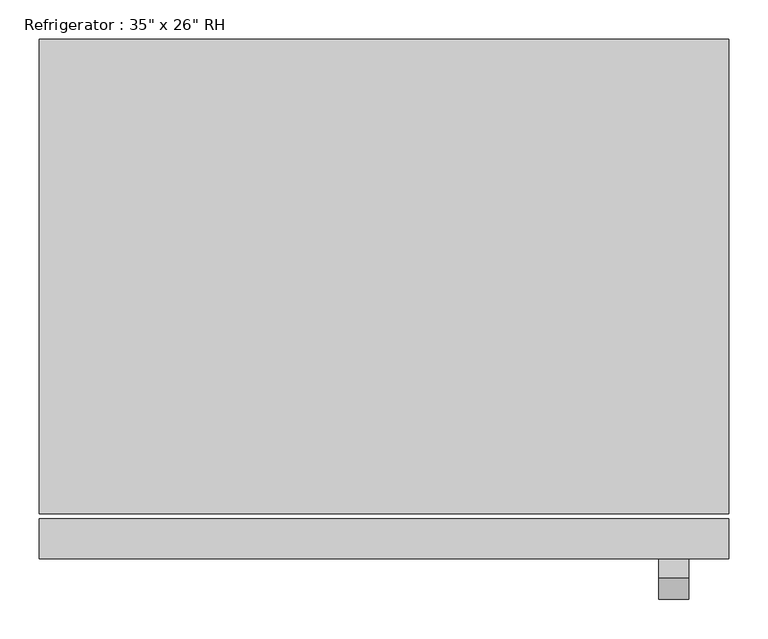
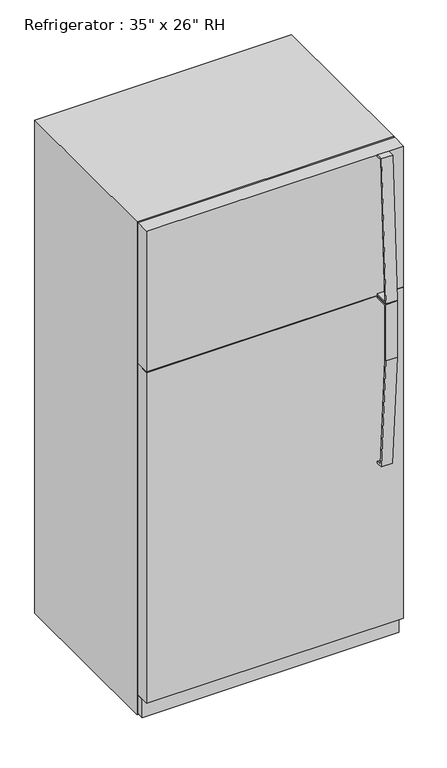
"""IFC4 building model written with IfcOpenShell, lengths in millimetres: proxy geometry."""

from ifc_helpers import new_model, si_unit, frame, origin, origin_with_axes, place, context, project, spatial, polyline, outline, extrude, source, transform, mapped, element, save


def proxy_033c6c51(model_context):
    return source(origin(), model_context, "Body", "SweptSolid", [
        extrude(outline(polyline([(-344.8760285, 1262.0625), (-389.3260285, 1262.0625), (-389.3260285, 1065.4342469), (-361.8473987, 672.4715334), (-344.8760285, 672.4715334), (-344.8760285, 666.1370017), (-367.7699512, 666.1370017), (-395.6760285, 1065.2125), (-395.6760285, 1268.4125), (-344.8760285, 1268.4125), (-344.8760285, 1262.0625)])), frame((349.25, 0.0, 0.0), z_axis=(1.0, 0.0, 0.0), x_axis=(0.0, 1.0, 0.0)), (0.0, 0.0, 1.0), 38.4332978),
        extrude(outline(polyline([(-369.714413, 1778.0), (-345.6530855, 1778.0), (-345.6530855, 1771.65), (-364.5013449, 1771.65), (-390.3757207, 1277.9375), (-345.6530855, 1277.9375), (-345.6530855, 1271.5875), (-396.2543675, 1271.5875), (-369.714413, 1778.0)])), frame((349.25, 0.0, 0.0), z_axis=(1.0, 0.0, 0.0), x_axis=(0.0, 1.0, 0.0)), (0.0, 0.0, 1.0), 38.4332978),
        extrude(outline(polyline([(438.15, -294.0760285), (438.15, -319.4760285), (-438.15, -319.4760285), (-438.15, -294.0760285), (438.15, -294.0760285)])), frame((0.0, 0.0, 9.3816357), z_axis=(0.0, 0.0, 1.0), x_axis=(1.0, 0.0, 0.0)), (0.0, 0.0, 1.0), 63.5),
        extrude(outline(polyline([(438.15, -294.0760285), (438.15, -344.8760285), (-438.15, -344.8760285), (-438.15, -294.0760285), (438.15, -294.0760285)])), frame((0.0, 0.0, 76.2), z_axis=(0.0, 0.0, 1.0), x_axis=(1.0, 0.0, 0.0)), (0.0, 0.0, 1.0), 1192.2125),
        extrude(outline(polyline([(438.15, -294.0760285), (438.15, -344.8760285), (-438.15, -344.8760285), (-438.15, -294.0760285), (438.15, -294.0760285)])), frame((0.0, 0.0, 1271.5875), z_axis=(0.0, 0.0, 1.0), x_axis=(1.0, 0.0, 0.0)), (0.0, 0.0, 1.0), 506.4125),
        extrude(outline(polyline([(438.15, 315.5239715), (438.15, -287.7260285), (-438.15, -287.7260285), (-438.15, 315.5239715), (438.15, 315.5239715)])), origin_with_axes(), (0.0, 0.0, 1.0), 1778.0),
    ])


if __name__ == "__main__":
    model = new_model("IFC4")
    model_context = context("Model", 3, world=origin())
    ifc_project = project(units=[si_unit("LENGTHUNIT", "METRE", prefix="MILLI")], contexts=[model_context])
    site = spatial("IfcSite", under=ifc_project)
    building = spatial("IfcBuilding", under=site)
    placement = place(None, origin())
    proxy_shape = proxy_033c6c51(model_context)
    element("IfcBuildingElementProxy", 1, Name="Refrigerator : 35\" x 26\" RH", ObjectType="Refrigerator : 35\" x 26\" RH", at=placement, inside=building, context=model_context, shape_type="MappedRepresentation", body=[
        mapped(proxy_shape, transform((0.0, 0.0, 0.0), x_axis=(1.0, 0.0, 0.0), y_axis=(0.0, 1.0, 0.0), z_axis=(0.0, 0.0, 1.0))),
    ])
    save(model, "model.ifc")
